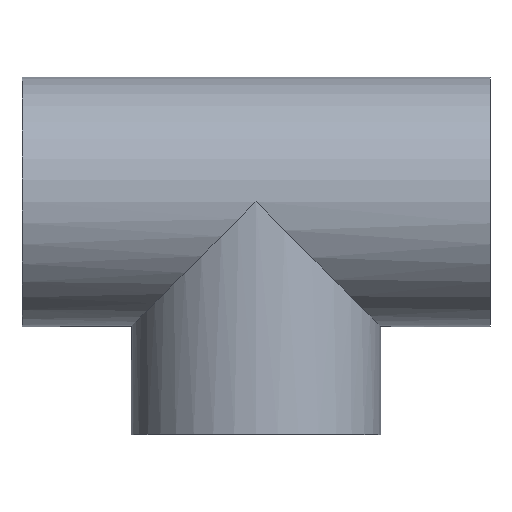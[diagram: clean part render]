
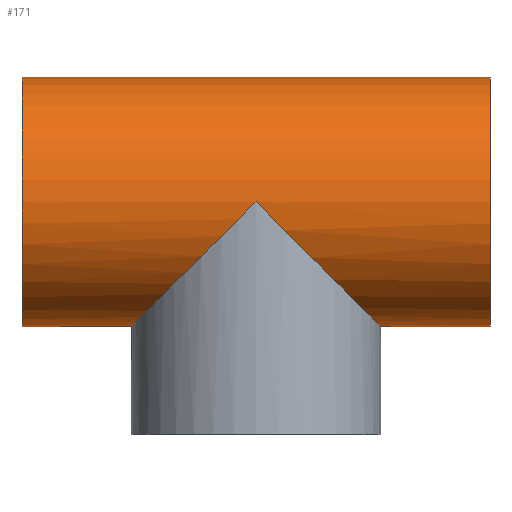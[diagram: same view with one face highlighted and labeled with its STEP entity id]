
A CAD part, top view. The second image highlights one B-rep face of the part: STEP entity #171.
In plain terms, the highlighted cylindrical face has radius 44.5 mm (diameter 89 mm), a full revolution.
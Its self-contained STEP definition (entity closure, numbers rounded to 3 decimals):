
#17=ELLIPSE('',#199,62.933,44.5);
#18=ELLIPSE('',#200,62.933,44.5);
#32=FACE_BOUND('',#68,.T.);
#33=FACE_BOUND('',#69,.T.);
#47=FACE_OUTER_BOUND('',#67,.T.);
#67=EDGE_LOOP('',(#140));
#68=EDGE_LOOP('',(#141,#142));
#69=EDGE_LOOP('',(#143));
#90=CIRCLE('',#198,44.5);
#91=CIRCLE('',#201,44.5);
#104=VERTEX_POINT('',#299);
#105=VERTEX_POINT('',#301);
#106=VERTEX_POINT('',#302);
#107=VERTEX_POINT('',#305);
#120=EDGE_CURVE('',#104,#104,#90,.T.);
#121=EDGE_CURVE('',#105,#106,#17,.T.);
#122=EDGE_CURVE('',#106,#105,#18,.T.);
#123=EDGE_CURVE('',#107,#107,#91,.T.);
#140=ORIENTED_EDGE('',*,*,#120,.F.);
#141=ORIENTED_EDGE('',*,*,#121,.T.);
#142=ORIENTED_EDGE('',*,*,#122,.T.);
#143=ORIENTED_EDGE('',*,*,#123,.F.);
#161=CYLINDRICAL_SURFACE('',#197,44.5);
#171=ADVANCED_FACE('',(#47,#32,#33),#161,.T.);
#197=AXIS2_PLACEMENT_3D('',#298,#246,#247);
#198=AXIS2_PLACEMENT_3D('',#300,#248,#249);
#199=AXIS2_PLACEMENT_3D('',#303,#250,#251);
#200=AXIS2_PLACEMENT_3D('',#304,#252,#253);
#201=AXIS2_PLACEMENT_3D('',#306,#254,#255);
#246=DIRECTION('center_axis',(1.,0.,0.));
#247=DIRECTION('ref_axis',(0.,-1.,0.));
#248=DIRECTION('center_axis',(-1.,0.,0.));
#249=DIRECTION('ref_axis',(0.,-1.,0.));
#250=DIRECTION('center_axis',(-0.707,0.707,0.));
#251=DIRECTION('ref_axis',(-0.707,-0.707,0.));
#252=DIRECTION('center_axis',(0.707,0.707,0.));
#253=DIRECTION('ref_axis',(-0.707,0.707,0.));
#254=DIRECTION('center_axis',(1.,0.,0.));
#255=DIRECTION('ref_axis',(0.,-1.,0.));
#298=CARTESIAN_POINT('Origin',(0.,0.,0.));
#299=CARTESIAN_POINT('',(-83.5,44.5,0.));
#300=CARTESIAN_POINT('Origin',(-83.5,0.,0.));
#301=CARTESIAN_POINT('',(0.,0.,-44.5));
#302=CARTESIAN_POINT('',(0.,0.,44.5));
#303=CARTESIAN_POINT('Origin',(0.,0.,0.));
#304=CARTESIAN_POINT('Origin',(0.,0.,0.));
#305=CARTESIAN_POINT('',(83.5,44.5,0.));
#306=CARTESIAN_POINT('Origin',(83.5,0.,0.));
